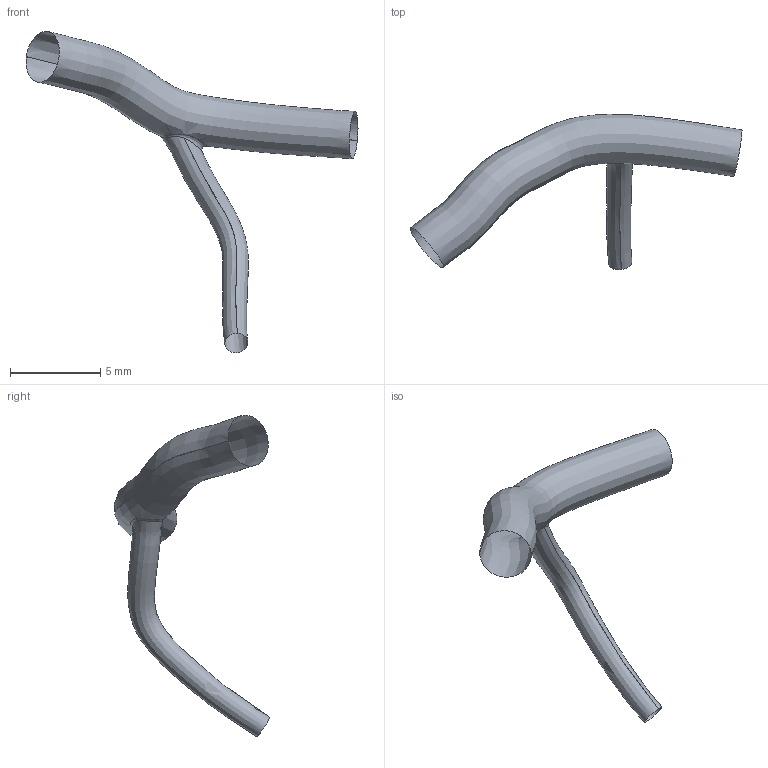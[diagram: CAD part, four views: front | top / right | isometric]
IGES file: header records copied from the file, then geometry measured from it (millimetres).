
Global section: file name: C:\Documents and Settings\Administrator\Desktop\FDA-Pig\Domestic RCA\Pig_000003\rv.ed.igs; native system: Rhinoceros ( May 19 2006 ); preprocessor: Trout Lake IGES 012 May 19 2006; date: 111205.184904; units: centimetre
Bounding box: 18.39 x 8.59 x 17.81 mm (x, y, z)
Surface area: 239.6 mm2 (no closed solid volume)
Topology: 0 solids, 0 shells, 3 faces, 41 edges, 38 vertices
Faces by surface type: bspline 3
